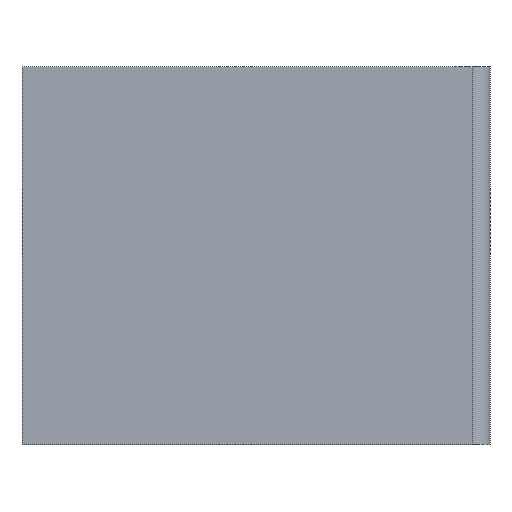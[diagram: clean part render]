
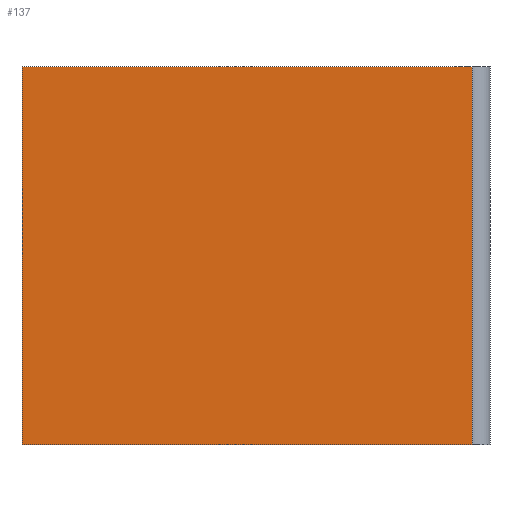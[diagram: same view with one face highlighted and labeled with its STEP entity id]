
A CAD part, front view. The second image highlights one B-rep face of the part: STEP entity #137.
In plain terms, the highlighted planar face has unit normal (0, -1, 0).
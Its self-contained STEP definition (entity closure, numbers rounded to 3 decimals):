
#21 = EDGE_CURVE('',#22,#24,#26,.T.);
#22 = VERTEX_POINT('',#23);
#23 = CARTESIAN_POINT('',(-450.,-139.913,2.5));
#24 = VERTEX_POINT('',#25);
#25 = CARTESIAN_POINT('',(-450.,-139.913,23.5));
#26 = SURFACE_CURVE('',#27,(#31,#43),.PCURVE_S1.);
#27 = LINE('',#28,#29);
#28 = CARTESIAN_POINT('',(-450.,-139.913,2.5));
#29 = VECTOR('',#30,1.);
#30 = DIRECTION('',(0.,0.,1.));
#31 = PCURVE('',#32,#37);
#32 = PLANE('',#33);
#33 = AXIS2_PLACEMENT_3D('',#34,#35,#36);
#34 = CARTESIAN_POINT('',(-450.,-139.913,2.5));
#35 = DIRECTION('',(1.,0.,-0.));
#36 = DIRECTION('',(0.,0.,1.));
#37 = DEFINITIONAL_REPRESENTATION('',(#38),#42);
#38 = LINE('',#39,#40);
#39 = CARTESIAN_POINT('',(0.,0.));
#40 = VECTOR('',#41,1.);
#41 = DIRECTION('',(1.,0.));
#42 = ( GEOMETRIC_REPRESENTATION_CONTEXT(2) 
PARAMETRIC_REPRESENTATION_CONTEXT() REPRESENTATION_CONTEXT('2D SPACE',''
  ) );
#43 = PCURVE('',#44,#49);
#44 = PLANE('',#45);
#45 = AXIS2_PLACEMENT_3D('',#46,#47,#48);
#46 = CARTESIAN_POINT('',(-450.,-139.913,2.5));
#47 = DIRECTION('',(-0.,1.,0.));
#48 = DIRECTION('',(0.,0.,1.));
#49 = DEFINITIONAL_REPRESENTATION('',(#50),#54);
#50 = LINE('',#51,#52);
#51 = CARTESIAN_POINT('',(0.,0.));
#52 = VECTOR('',#53,1.);
#53 = DIRECTION('',(1.,0.));
#54 = ( GEOMETRIC_REPRESENTATION_CONTEXT(2) 
PARAMETRIC_REPRESENTATION_CONTEXT() REPRESENTATION_CONTEXT('2D SPACE',''
  ) );
#72 = PLANE('',#73);
#73 = AXIS2_PLACEMENT_3D('',#74,#75,#76);
#74 = CARTESIAN_POINT('',(-450.,-139.913,2.5));
#75 = DIRECTION('',(0.,0.,1.));
#76 = DIRECTION('',(1.,0.,-0.));
#126 = PLANE('',#127);
#127 = AXIS2_PLACEMENT_3D('',#128,#129,#130);
#128 = CARTESIAN_POINT('',(-450.,-139.913,23.5));
#129 = DIRECTION('',(0.,0.,1.));
#130 = DIRECTION('',(1.,0.,-0.));
#137 = ADVANCED_FACE('',(#138),#44,.F.);
#138 = FACE_BOUND('',#139,.F.);
#139 = EDGE_LOOP('',(#140,#163,#164,#187));
#140 = ORIENTED_EDGE('',*,*,#141,.F.);
#141 = EDGE_CURVE('',#22,#142,#144,.T.);
#142 = VERTEX_POINT('',#143);
#143 = CARTESIAN_POINT('',(-425.,-139.913,2.5));
#144 = SURFACE_CURVE('',#145,(#149,#156),.PCURVE_S1.);
#145 = LINE('',#146,#147);
#146 = CARTESIAN_POINT('',(-450.,-139.913,2.5));
#147 = VECTOR('',#148,1.);
#148 = DIRECTION('',(1.,0.,-0.));
#149 = PCURVE('',#44,#150);
#150 = DEFINITIONAL_REPRESENTATION('',(#151),#155);
#151 = LINE('',#152,#153);
#152 = CARTESIAN_POINT('',(0.,0.));
#153 = VECTOR('',#154,1.);
#154 = DIRECTION('',(0.,1.));
#155 = ( GEOMETRIC_REPRESENTATION_CONTEXT(2) 
PARAMETRIC_REPRESENTATION_CONTEXT() REPRESENTATION_CONTEXT('2D SPACE',''
  ) );
#156 = PCURVE('',#72,#157);
#157 = DEFINITIONAL_REPRESENTATION('',(#158),#162);
#158 = LINE('',#159,#160);
#159 = CARTESIAN_POINT('',(0.,0.));
#160 = VECTOR('',#161,1.);
#161 = DIRECTION('',(1.,0.));
#162 = ( GEOMETRIC_REPRESENTATION_CONTEXT(2) 
PARAMETRIC_REPRESENTATION_CONTEXT() REPRESENTATION_CONTEXT('2D SPACE',''
  ) );
#163 = ORIENTED_EDGE('',*,*,#21,.T.);
#164 = ORIENTED_EDGE('',*,*,#165,.T.);
#165 = EDGE_CURVE('',#24,#166,#168,.T.);
#166 = VERTEX_POINT('',#167);
#167 = CARTESIAN_POINT('',(-425.,-139.913,23.5));
#168 = SURFACE_CURVE('',#169,(#173,#180),.PCURVE_S1.);
#169 = LINE('',#170,#171);
#170 = CARTESIAN_POINT('',(-450.,-139.913,23.5));
#171 = VECTOR('',#172,1.);
#172 = DIRECTION('',(1.,0.,-0.));
#173 = PCURVE('',#44,#174);
#174 = DEFINITIONAL_REPRESENTATION('',(#175),#179);
#175 = LINE('',#176,#177);
#176 = CARTESIAN_POINT('',(21.,0.));
#177 = VECTOR('',#178,1.);
#178 = DIRECTION('',(0.,1.));
#179 = ( GEOMETRIC_REPRESENTATION_CONTEXT(2) 
PARAMETRIC_REPRESENTATION_CONTEXT() REPRESENTATION_CONTEXT('2D SPACE',''
  ) );
#180 = PCURVE('',#126,#181);
#181 = DEFINITIONAL_REPRESENTATION('',(#182),#186);
#182 = LINE('',#183,#184);
#183 = CARTESIAN_POINT('',(0.,0.));
#184 = VECTOR('',#185,1.);
#185 = DIRECTION('',(1.,0.));
#186 = ( GEOMETRIC_REPRESENTATION_CONTEXT(2) 
PARAMETRIC_REPRESENTATION_CONTEXT() REPRESENTATION_CONTEXT('2D SPACE',''
  ) );
#187 = ORIENTED_EDGE('',*,*,#188,.F.);
#188 = EDGE_CURVE('',#142,#166,#189,.T.);
#189 = SURFACE_CURVE('',#190,(#194,#201),.PCURVE_S1.);
#190 = LINE('',#191,#192);
#191 = CARTESIAN_POINT('',(-425.,-139.913,2.5));
#192 = VECTOR('',#193,1.);
#193 = DIRECTION('',(0.,0.,1.));
#194 = PCURVE('',#44,#195);
#195 = DEFINITIONAL_REPRESENTATION('',(#196),#200);
#196 = LINE('',#197,#198);
#197 = CARTESIAN_POINT('',(0.,25.));
#198 = VECTOR('',#199,1.);
#199 = DIRECTION('',(1.,0.));
#200 = ( GEOMETRIC_REPRESENTATION_CONTEXT(2) 
PARAMETRIC_REPRESENTATION_CONTEXT() REPRESENTATION_CONTEXT('2D SPACE',''
  ) );
#201 = PCURVE('',#202,#207);
#202 = CYLINDRICAL_SURFACE('',#203,1.);
#203 = AXIS2_PLACEMENT_3D('',#204,#205,#206);
#204 = CARTESIAN_POINT('',(-425.,-138.913,2.5));
#205 = DIRECTION('',(0.,0.,1.));
#206 = DIRECTION('',(1.,0.,-0.));
#207 = DEFINITIONAL_REPRESENTATION('',(#208),#212);
#208 = LINE('',#209,#210);
#209 = CARTESIAN_POINT('',(4.712,0.));
#210 = VECTOR('',#211,1.);
#211 = DIRECTION('',(0.,1.));
#212 = ( GEOMETRIC_REPRESENTATION_CONTEXT(2) 
PARAMETRIC_REPRESENTATION_CONTEXT() REPRESENTATION_CONTEXT('2D SPACE',''
  ) );
